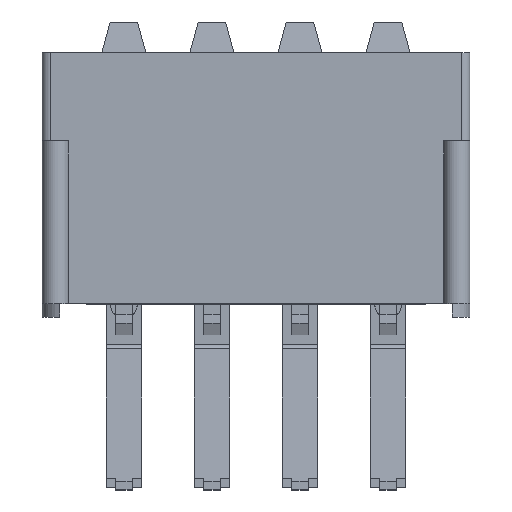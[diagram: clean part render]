
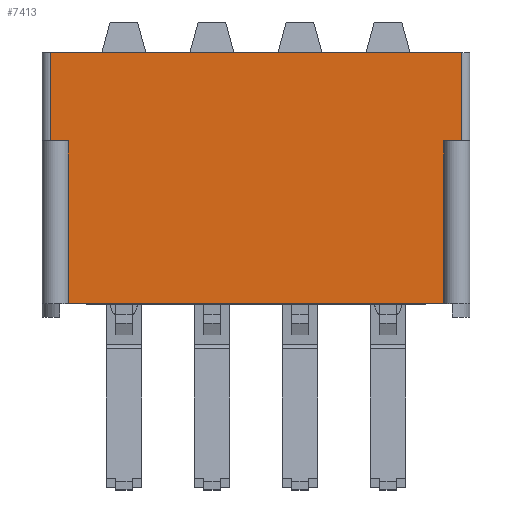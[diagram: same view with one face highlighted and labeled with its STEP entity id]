
A CAD part, front view. The second image highlights one B-rep face of the part: STEP entity #7413.
In plain terms, the highlighted planar face has unit normal (0, -1, 0).
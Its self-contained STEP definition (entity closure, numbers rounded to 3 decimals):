
#542 = EDGE_LOOP ( 'NONE', ( #12716, #16979, #6681, #19413, #6624, #11001, #12873, #7016 ) ) ;
#1485 = CARTESIAN_POINT ( 'NONE',  ( 0.762, -9.652, -2.54 ) ) ;
#2292 = EDGE_CURVE ( 'NONE', #9139, #17114, #19347, .T. ) ;
#2438 = CARTESIAN_POINT ( 'NONE',  ( 0.25, -9.652, -2.54 ) ) ;
#2684 = CARTESIAN_POINT ( 'NONE',  ( 0.25, -9.652, -7.239 ) ) ;
#2692 = VECTOR ( 'NONE', #17078, 1000. ) ;
#3316 = VECTOR ( 'NONE', #18615, 1000. ) ;
#3537 = CARTESIAN_POINT ( 'NONE',  ( 0.762, -9.652, -2.54 ) ) ;
#3738 = LINE ( 'NONE', #9968, #18133 ) ;
#4612 = LINE ( 'NONE', #10841, #2692 ) ;
#4689 = EDGE_CURVE ( 'NONE', #19960, #10375, #3738, .T. ) ;
#4820 = CARTESIAN_POINT ( 'NONE',  ( 0.25, -9.652, -7.239 ) ) ;
#6340 = CARTESIAN_POINT ( 'NONE',  ( 12.094, -9.652, -2.54 ) ) ;
#6398 = VECTOR ( 'NONE', #12686, 1000. ) ;
#6624 = ORIENTED_EDGE ( 'NONE', *, *, #7961, .T. ) ;
#6681 = ORIENTED_EDGE ( 'NONE', *, *, #4689, .F. ) ;
#6874 = CARTESIAN_POINT ( 'NONE',  ( 12.094, -9.652, -7.239 ) ) ;
#7016 = ORIENTED_EDGE ( 'NONE', *, *, #14545, .F. ) ;
#7131 = EDGE_CURVE ( 'NONE', #17114, #10375, #11160, .T. ) ;
#7413 = ADVANCED_FACE ( 'NONE', ( #19278 ), #9987, .T. ) ;
#7526 = LINE ( 'NONE', #12089, #15499 ) ;
#7961 = EDGE_CURVE ( 'NONE', #12080, #18680, #19043, .T. ) ;
#9075 = VERTEX_POINT ( 'NONE', #14047 ) ;
#9129 = EDGE_CURVE ( 'NONE', #9075, #18680, #7526, .T. ) ;
#9139 = VERTEX_POINT ( 'NONE', #1485 ) ;
#9899 = DIRECTION ( 'NONE',  ( 0., -1., 0. ) ) ;
#9968 = CARTESIAN_POINT ( 'NONE',  ( 11.582, -9.652, -2.54 ) ) ;
#9987 = PLANE ( 'NONE',  #20064 ) ;
#10375 = VERTEX_POINT ( 'NONE', #11679 ) ;
#10841 = CARTESIAN_POINT ( 'NONE',  ( 0.25, -9.652, -2.54 ) ) ;
#11001 = ORIENTED_EDGE ( 'NONE', *, *, #9129, .F. ) ;
#11160 = LINE ( 'NONE', #12883, #6398 ) ;
#11679 = CARTESIAN_POINT ( 'NONE',  ( 11.582, -9.652, -7.239 ) ) ;
#11755 = EDGE_CURVE ( 'NONE', #18347, #9075, #15351, .T. ) ;
#12080 = VERTEX_POINT ( 'NONE', #6340 ) ;
#12089 = CARTESIAN_POINT ( 'NONE',  ( 0.25, -9.652, 0. ) ) ;
#12516 = DIRECTION ( 'NONE',  ( 1., 0., 0. ) ) ;
#12686 = DIRECTION ( 'NONE',  ( 1., 0., 0. ) ) ;
#12716 = ORIENTED_EDGE ( 'NONE', *, *, #2292, .T. ) ;
#12718 = VECTOR ( 'NONE', #14349, 1000. ) ;
#12873 = ORIENTED_EDGE ( 'NONE', *, *, #11755, .F. ) ;
#12883 = CARTESIAN_POINT ( 'NONE',  ( 0.25, -9.652, -7.239 ) ) ;
#13455 = CARTESIAN_POINT ( 'NONE',  ( 12.094, -9.652, 0. ) ) ;
#13832 = DIRECTION ( 'NONE',  ( 1., 0., 0. ) ) ;
#14047 = CARTESIAN_POINT ( 'NONE',  ( 0.25, -9.652, 0. ) ) ;
#14349 = DIRECTION ( 'NONE',  ( 0., 0., -1. ) ) ;
#14545 = EDGE_CURVE ( 'NONE', #9139, #18347, #4612, .T. ) ;
#14895 = VECTOR ( 'NONE', #15876, 1000. ) ;
#15351 = LINE ( 'NONE', #2684, #3316 ) ;
#15499 = VECTOR ( 'NONE', #12516, 1000. ) ;
#15876 = DIRECTION ( 'NONE',  ( 0., 0., 1. ) ) ;
#16194 = DIRECTION ( 'NONE',  ( 0., 0., -1. ) ) ;
#16910 = LINE ( 'NONE', #2438, #17981 ) ;
#16979 = ORIENTED_EDGE ( 'NONE', *, *, #7131, .T. ) ;
#17078 = DIRECTION ( 'NONE',  ( -1., 0., 0. ) ) ;
#17114 = VERTEX_POINT ( 'NONE', #17292 ) ;
#17279 = DIRECTION ( 'NONE',  ( 0., 0., -1. ) ) ;
#17292 = CARTESIAN_POINT ( 'NONE',  ( 0.762, -9.652, -7.239 ) ) ;
#17667 = EDGE_CURVE ( 'NONE', #19960, #12080, #16910, .T. ) ;
#17981 = VECTOR ( 'NONE', #13832, 1000. ) ;
#18133 = VECTOR ( 'NONE', #16194, 1000. ) ;
#18338 = CARTESIAN_POINT ( 'NONE',  ( 11.582, -9.652, -2.54 ) ) ;
#18347 = VERTEX_POINT ( 'NONE', #20146 ) ;
#18615 = DIRECTION ( 'NONE',  ( 0., 0., 1. ) ) ;
#18680 = VERTEX_POINT ( 'NONE', #13455 ) ;
#19043 = LINE ( 'NONE', #6874, #14895 ) ;
#19278 = FACE_OUTER_BOUND ( 'NONE', #542, .T. ) ;
#19347 = LINE ( 'NONE', #3537, #12718 ) ;
#19413 = ORIENTED_EDGE ( 'NONE', *, *, #17667, .T. ) ;
#19960 = VERTEX_POINT ( 'NONE', #18338 ) ;
#20064 = AXIS2_PLACEMENT_3D ( 'NONE', #4820, #9899, #17279 ) ;
#20146 = CARTESIAN_POINT ( 'NONE',  ( 0.25, -9.652, -2.54 ) ) ;
